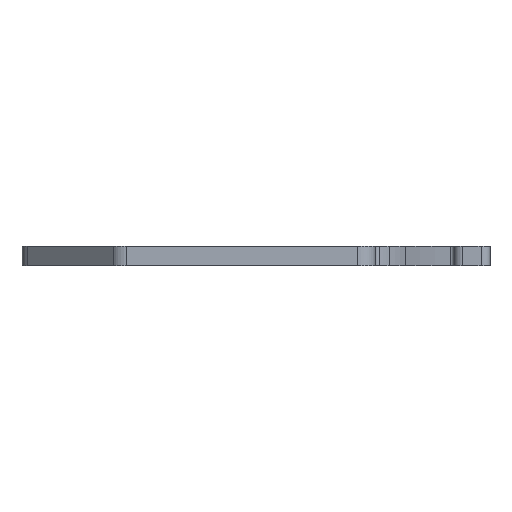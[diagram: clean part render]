
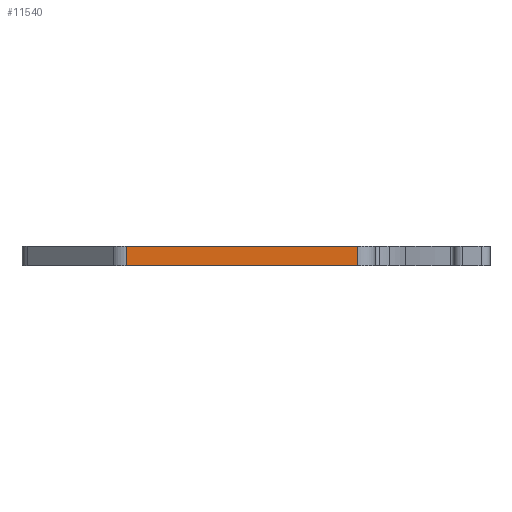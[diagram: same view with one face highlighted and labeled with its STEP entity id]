
A CAD part, left-side view. The second image highlights one B-rep face of the part: STEP entity #11540.
In plain terms, the highlighted planar face has unit normal (-1, 0, 0).
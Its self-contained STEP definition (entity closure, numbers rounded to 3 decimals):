
#640=CARTESIAN_POINT('',(-31.65,33.972,
0.7));
#650=VERTEX_POINT('',#640);
#680=CARTESIAN_POINT('',(-31.65,0.,0.7));
#690=DIRECTION('',(0.,-1.,0.));
#700=VECTOR('',#690,1.);
#710=LINE('',#680,#700);
#720=CARTESIAN_POINT('',(-31.65,8.,
0.7));
#730=VERTEX_POINT('',#720);
#740=EDGE_CURVE('',#650,#730,#710,.T.);
#7880=CARTESIAN_POINT('',(-31.65,8.,2.9));
#7890=VERTEX_POINT('',#7880);
#7920=CARTESIAN_POINT('',(-31.65,0.,2.9));
#7930=DIRECTION('',(0.,-1.,0.));
#7940=VECTOR('',#7930,1.);
#7950=LINE('',#7920,#7940);
#7960=CARTESIAN_POINT('',(-31.65,33.972,2.9));
#7970=VERTEX_POINT('',#7960);
#7980=EDGE_CURVE('',#7970,#7890,#7950,.T.);
#11280=CARTESIAN_POINT('',(-31.65,33.972,
0.7));
#11290=DIRECTION('',(-0.,-0.,-1.));
#11300=VECTOR('',#11290,1.);
#11310=LINE('',#11280,#11300);
#11320=EDGE_CURVE('',#7970,#650,#11310,.T.);
#11380=CARTESIAN_POINT('',(-31.65,8.,
0.7));
#11390=DIRECTION('',(-1.,0.,0.));
#11400=DIRECTION('',(0.,1.,0.));
#11410=AXIS2_PLACEMENT_3D('',#11380,#11390,#11400);
#11420=PLANE('',#11410);
#11430=ORIENTED_EDGE('',*,*,#11320,.T.);
#11440=ORIENTED_EDGE('',*,*,#7980,.F.);
#11450=CARTESIAN_POINT('',(-31.65,8.,
0.7));
#11460=DIRECTION('',(-0.,-0.,-1.));
#11470=VECTOR('',#11460,1.);
#11480=LINE('',#11450,#11470);
#11490=EDGE_CURVE('',#7890,#730,#11480,.T.);
#11500=ORIENTED_EDGE('',*,*,#11490,.F.);
#11510=ORIENTED_EDGE('',*,*,#740,.T.);
#11520=EDGE_LOOP('',(#11510,#11500,#11440,#11430));
#11530=FACE_OUTER_BOUND('',#11520,.T.);
#11540=ADVANCED_FACE('',(#11530),#11420,.T.);
